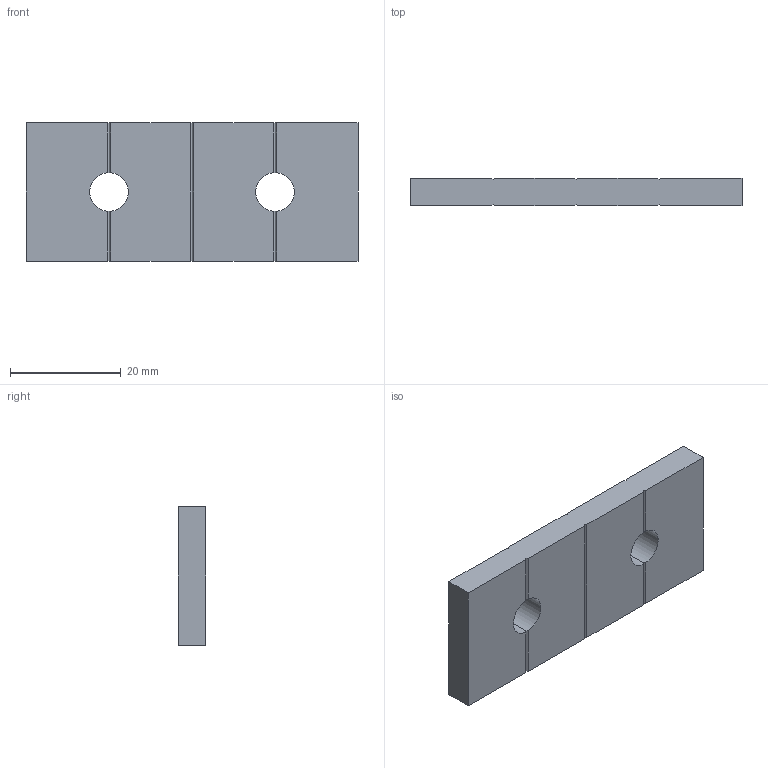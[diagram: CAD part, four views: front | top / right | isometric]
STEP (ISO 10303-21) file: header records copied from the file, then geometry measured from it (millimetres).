
FILE_DESCRIPTION (( 'STEP AP203' ), '1' );
FILE_NAME ('DJF6025-6.STEP', '2020-10-14T02:57:25', ( '' ), ( '' ), 'SwSTEP 2.0', 'SolidWorks 2017', '' );
FILE_SCHEMA (( 'CONFIG_CONTROL_DESIGN' ));
Length unit declared in the file: millimetre
Products named in the file (1): DJF6025-6
Bounding box: 60 x 5 x 25 mm (x, y, z)
Volume: 7104.2 mm3; surface area: 3944.5 mm2
Topology: 1 solids, 1 shells, 36 faces, 106 edges, 68 vertices
Faces by surface type: plane 32, cylinder 4
Entity records: 1259 total; most frequent: CARTESIAN_POINT 259, ORIENTED_EDGE 212, DIRECTION 172, EDGE_CURVE 106, VECTOR 82, LINE 82, VERTEX_POINT 68, AXIS2_PLACEMENT_3D 45
